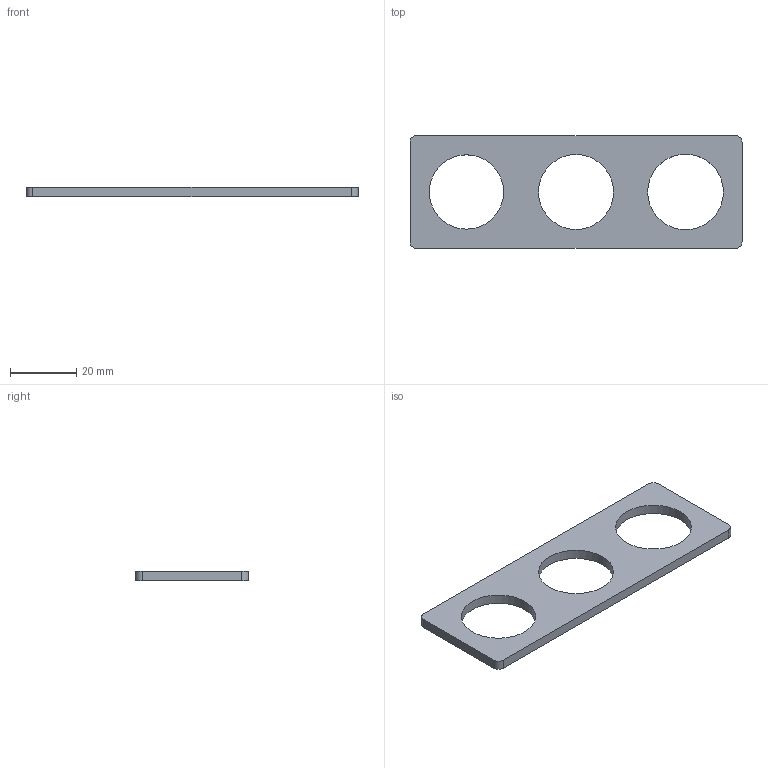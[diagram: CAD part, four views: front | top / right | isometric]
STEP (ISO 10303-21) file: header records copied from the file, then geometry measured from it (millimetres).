
FILE_DESCRIPTION(('Open CASCADE Model'),'2;1');
FILE_NAME('Open CASCADE Shape Model','2026-09-08T11:16:16',('Author'),( 'Open CASCADE'),'Open CASCADE STEP processor 7.7','Open CASCADE 7.7' ,'Unknown');
FILE_SCHEMA(('AUTOMOTIVE_DESIGN { 1 0 10303 214 1 1 1 1 }'));
Length unit declared in the file: millimetre
Products named in the file (1): Open CASCADE STEP translator 7.7 2
Bounding box: 100 x 34 x 3 mm (x, y, z)
Volume: 6579.2 mm3; surface area: 5818.8 mm2
Topology: 1 solids, 1 shells, 13 faces, 33 edges, 22 vertices
Faces by surface type: cylinder 7, plane 6
Full cylindrical faces by diameter (mm): 22.4 x1, 22.6 x1, 22.8 x1
Entity records: 882 total; most frequent: CARTESIAN_POINT 195, DIRECTION 131, LINE 71, VECTOR 71, ORIENTED_EDGE 66, PCURVE 66, DEFINITIONAL_REPRESENTATION 66, EDGE_CURVE 33
